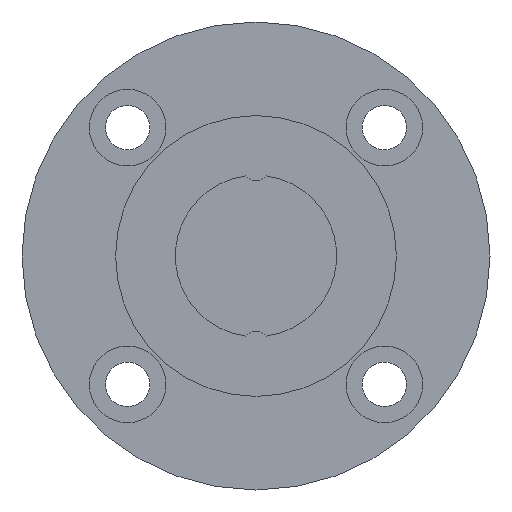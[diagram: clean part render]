
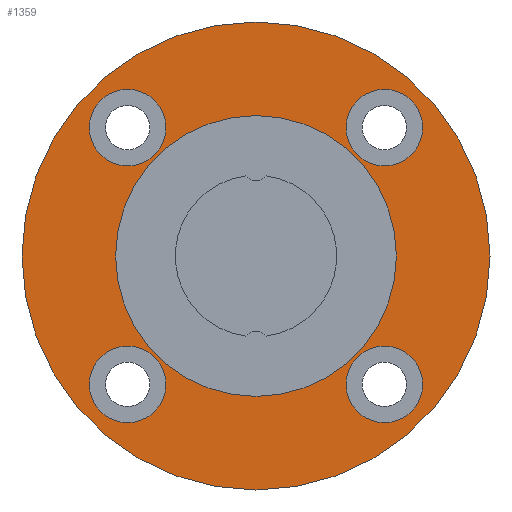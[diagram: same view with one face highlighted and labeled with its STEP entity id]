
A CAD part, left-side view. The second image highlights one B-rep face of the part: STEP entity #1359.
In plain terms, the highlighted planar face has unit normal (-1, 0, 0).
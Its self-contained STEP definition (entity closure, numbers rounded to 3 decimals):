
#357=CARTESIAN_POINT('',(9.65,-15.91,-11.16));
#358=VERTEX_POINT('',#357);
#359=CARTESIAN_POINT('',(9.65,-15.91,-15.91));
#360=DIRECTION('',(1.0,0.0,0.0));
#361=DIRECTION('',(0.0,0.0,1.0));
#362=AXIS2_PLACEMENT_3D('',#359,#360,#361);
#363=CIRCLE('',#362,4.75);
#364=EDGE_CURVE('',#358,#358,#363,.T.);
#467=CARTESIAN_POINT('',(9.65,15.91,-11.16));
#468=VERTEX_POINT('',#467);
#469=CARTESIAN_POINT('',(9.65,15.91,-15.91));
#470=DIRECTION('',(1.0,0.0,0.0));
#471=DIRECTION('',(0.0,0.0,1.0));
#472=AXIS2_PLACEMENT_3D('',#469,#470,#471);
#473=CIRCLE('',#472,4.75);
#474=EDGE_CURVE('',#468,#468,#473,.T.);
#577=CARTESIAN_POINT('',(9.65,15.91,20.66));
#578=VERTEX_POINT('',#577);
#579=CARTESIAN_POINT('',(9.65,15.91,15.91));
#580=DIRECTION('',(1.0,0.0,0.0));
#581=DIRECTION('',(0.0,0.0,1.0));
#582=AXIS2_PLACEMENT_3D('',#579,#580,#581);
#583=CIRCLE('',#582,4.75);
#584=EDGE_CURVE('',#578,#578,#583,.T.);
#687=CARTESIAN_POINT('',(9.65,-15.91,20.66));
#688=VERTEX_POINT('',#687);
#689=CARTESIAN_POINT('',(9.65,-15.91,15.91));
#690=DIRECTION('',(1.0,0.0,0.0));
#691=DIRECTION('',(0.0,0.0,1.0));
#692=AXIS2_PLACEMENT_3D('',#689,#690,#691);
#693=CIRCLE('',#692,4.75);
#694=EDGE_CURVE('',#688,#688,#693,.T.);
#1313=CARTESIAN_POINT('',(9.65,0.0,29.));
#1314=VERTEX_POINT('',#1313);
#1315=CARTESIAN_POINT('',(9.65,0.0,0.));
#1316=DIRECTION('',(-1.0,0.0,0.0));
#1317=DIRECTION('',(0.0,0.0,1.0));
#1318=AXIS2_PLACEMENT_3D('',#1315,#1316,#1317);
#1319=CIRCLE('',#1318,29.);
#1320=EDGE_CURVE('',#1314,#1314,#1319,.T.);
#1328=CARTESIAN_POINT('',(9.65,0.0,23.2));
#1329=DIRECTION('',(-1.0,0.0,0.0));
#1330=DIRECTION('',(0.0,0.0,1.0));
#1331=AXIS2_PLACEMENT_3D('',#1328,#1329,#1330);
#1332=PLANE('',#1331);
#1333=ORIENTED_EDGE('',*,*,#1320,.T.);
#1334=EDGE_LOOP('',(#1333));
#1335=FACE_OUTER_BOUND('',#1334,.T.);
#1336=ORIENTED_EDGE('',*,*,#364,.T.);
#1337=EDGE_LOOP('',(#1336));
#1338=FACE_BOUND('',#1337,.T.);
#1339=ORIENTED_EDGE('',*,*,#474,.T.);
#1340=EDGE_LOOP('',(#1339));
#1341=FACE_BOUND('',#1340,.T.);
#1342=ORIENTED_EDGE('',*,*,#584,.T.);
#1343=EDGE_LOOP('',(#1342));
#1344=FACE_BOUND('',#1343,.T.);
#1345=ORIENTED_EDGE('',*,*,#694,.T.);
#1346=EDGE_LOOP('',(#1345));
#1347=FACE_BOUND('',#1346,.T.);
#1348=CARTESIAN_POINT('',(9.65,0.0,17.4));
#1349=VERTEX_POINT('',#1348);
#1350=CARTESIAN_POINT('',(9.65,0.0,0.));
#1351=DIRECTION('',(-1.0,0.0,0.0));
#1352=DIRECTION('',(0.0,0.0,1.0));
#1353=AXIS2_PLACEMENT_3D('',#1350,#1351,#1352);
#1354=CIRCLE('',#1353,17.4);
#1355=EDGE_CURVE('',#1349,#1349,#1354,.T.);
#1356=ORIENTED_EDGE('',*,*,#1355,.F.);
#1357=EDGE_LOOP('',(#1356));
#1358=FACE_BOUND('',#1357,.T.);
#1359=ADVANCED_FACE('',(#1335,#1338,#1341,#1344,#1347,#1358),#1332,.T.);
